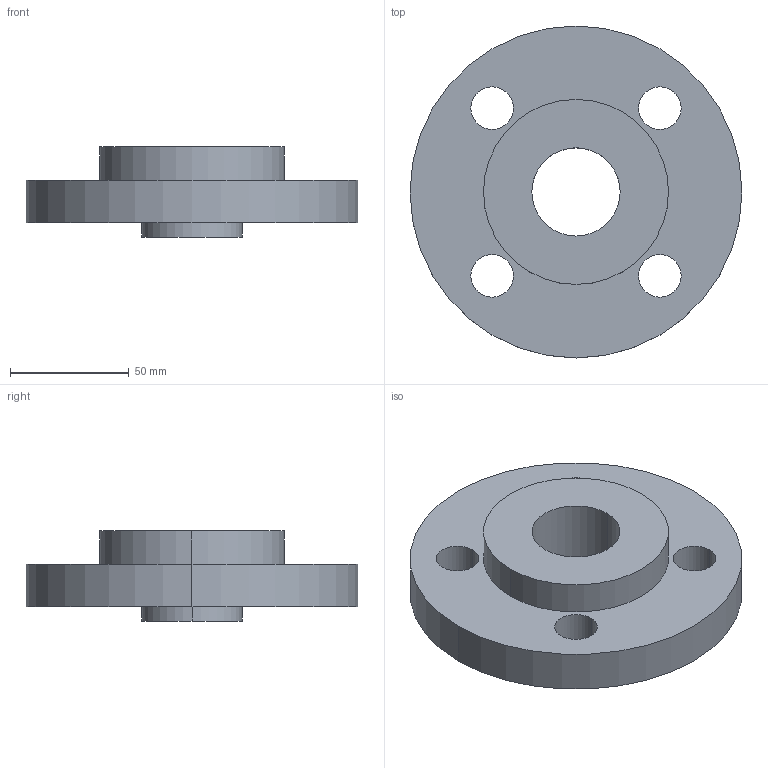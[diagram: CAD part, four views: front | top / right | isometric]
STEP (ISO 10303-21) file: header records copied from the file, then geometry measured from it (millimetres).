
FILE_DESCRIPTION (( 'STEP AP214' ), '1' );
FILE_NAME ('PN40 DN32 Type 04 in 34 - (Type A Face).STEP', '2018-12-30T00:05:30', ( '' ), ( '' ), 'SwSTEP 2.0', 'SolidWorks 2019', '' );
FILE_SCHEMA (( 'AUTOMOTIVE_DESIGN' ));
Length unit declared in the file: millimetre
Products named in the file (1): PN40 DN32 Type 04 in 34 - (Type A Face)
Bounding box: 140 x 140 x 38 mm (x, y, z)
Volume: 270270.7 mm3; surface area: 56041.8 mm2
Topology: 2 solids, 2 shells, 29 faces, 66 edges, 42 vertices
Faces by surface type: cylinder 18, cone 6, plane 5
Entity records: 901 total; most frequent: DIRECTION 168, CARTESIAN_POINT 138, ORIENTED_EDGE 132, AXIS2_PLACEMENT_3D 72, EDGE_CURVE 66, EDGE_LOOP 42, VERTEX_POINT 42, CIRCLE 42
